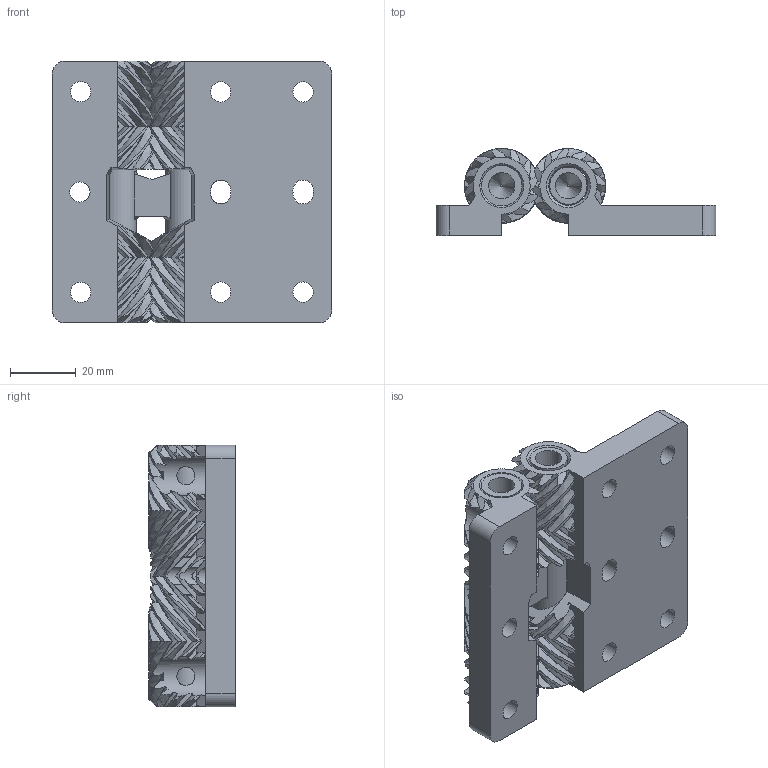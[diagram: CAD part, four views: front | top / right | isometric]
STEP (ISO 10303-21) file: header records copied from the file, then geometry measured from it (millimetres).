
FILE_DESCRIPTION(/* description */ (''),/* implementation_level */ '2;1');
FILE_NAME(/* name */ 'C:/Users/soder/Downloads/PIPHInge.step',/* time_stamp */ '2022-01-21T23:47:02-05:00',/* author */ (''),/* organization */ (''),/* preprocessor_version */ 'ST-DEVELOPER v18.1',/* originating_system */ 'Autodesk Translation Framework v10.13.0.1454',/* authorisation */ '');
FILE_SCHEMA (('AUTOMOTIVE_DESIGN { 1 0 10303 214 3 1 1 }'));
Products named in the file (1): FusionComponent
Bounding box: 85.36 x 26.48 x 80 mm (x, y, z)
Volume: 76619.7 mm3; surface area: 42475.5 mm2
Topology: 3 solids, 3 shells, 850 faces, 2285 edges, 1439 vertices
Faces by surface type: bspline 596, cylinder 116, plane 86, cone 52
Full cylindrical faces by diameter (mm): 6.2 x7, 8 x4, 11.4 x2, 12 x8
Entity records: 53512 total; most frequent: CARTESIAN_POINT 37806, ORIENTED_EDGE 4570, EDGE_CURVE 2285, VERTEX_POINT 1439, DIRECTION 1351, B_SPLINE_CURVE_WITH_KNOTS 1143, EDGE_LOOP 882, FACE_OUTER_BOUND 850
